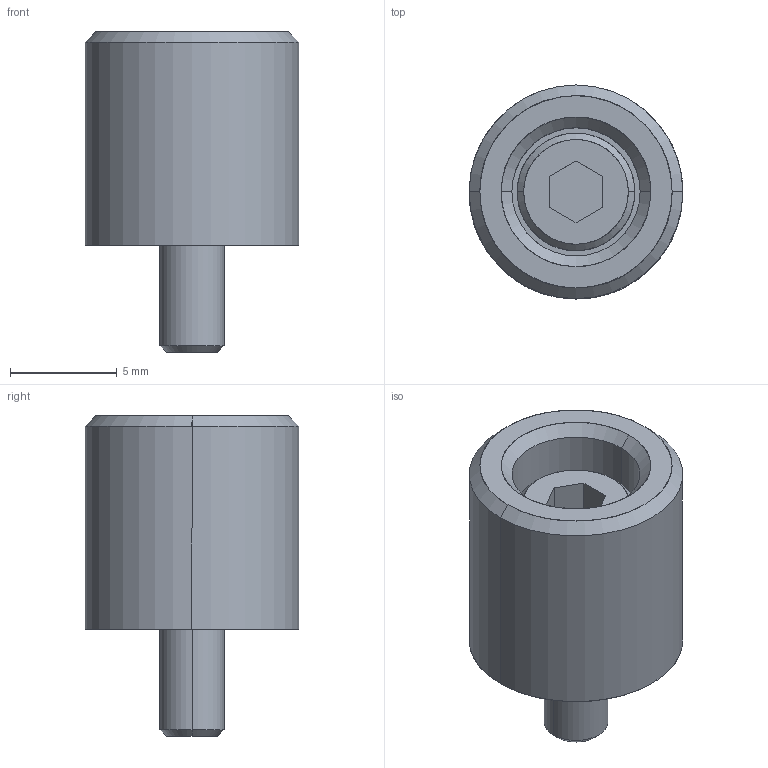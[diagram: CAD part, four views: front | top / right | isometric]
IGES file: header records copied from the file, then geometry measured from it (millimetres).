
Global section: file name: E:\UnigraphicsGraphicData\MISUMI_PRESS-PARTS\IGES\3d_sbv10-10-r-10_00586_r00.igs; native system: NX V5.0; preprocessor: UGS NX IGES V5.0; author: MISUMI; date: 20110105.162507; units: millimetre
Bounding box: 10 x 10 x 15 mm (x, y, z)
Surface area: 790.6 mm2 (no closed solid volume)
Topology: 0 solids, 0 shells, 31 faces, 188 edges, 188 vertices
Faces by surface type: bspline 31
